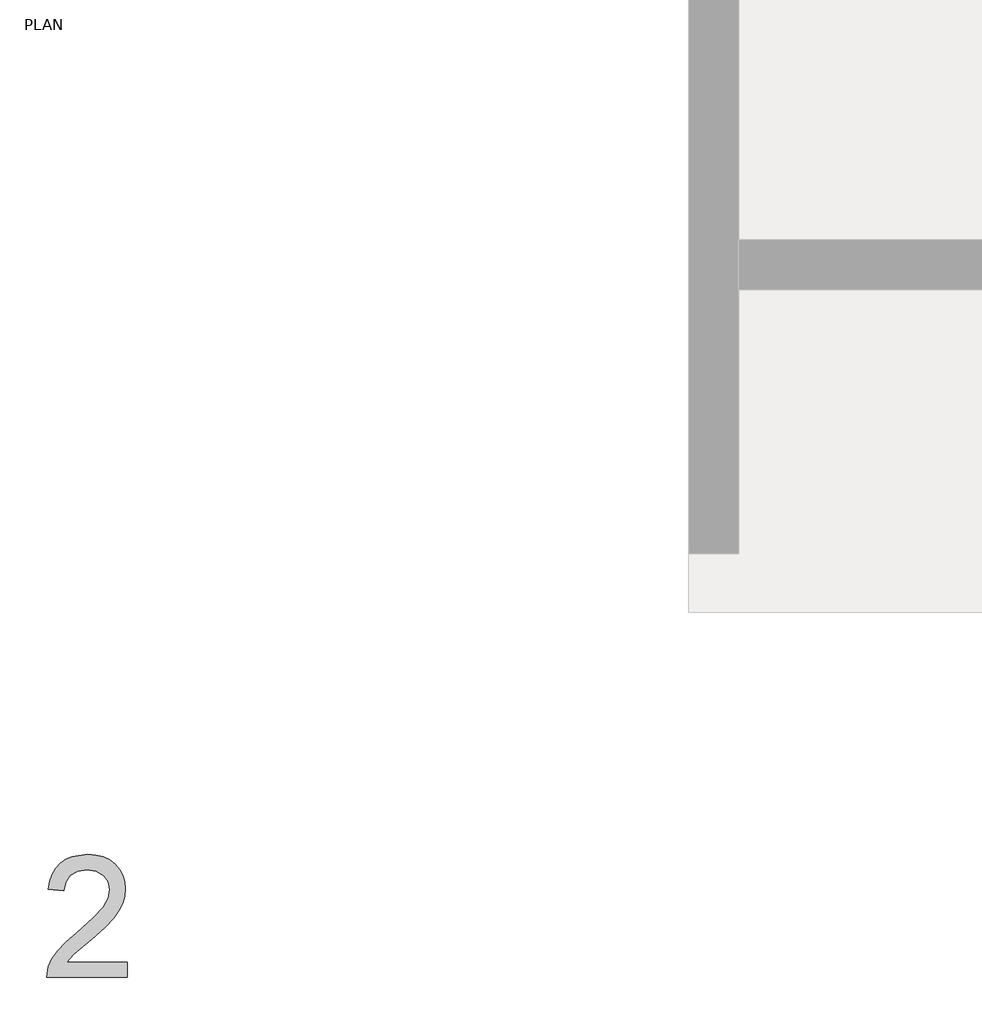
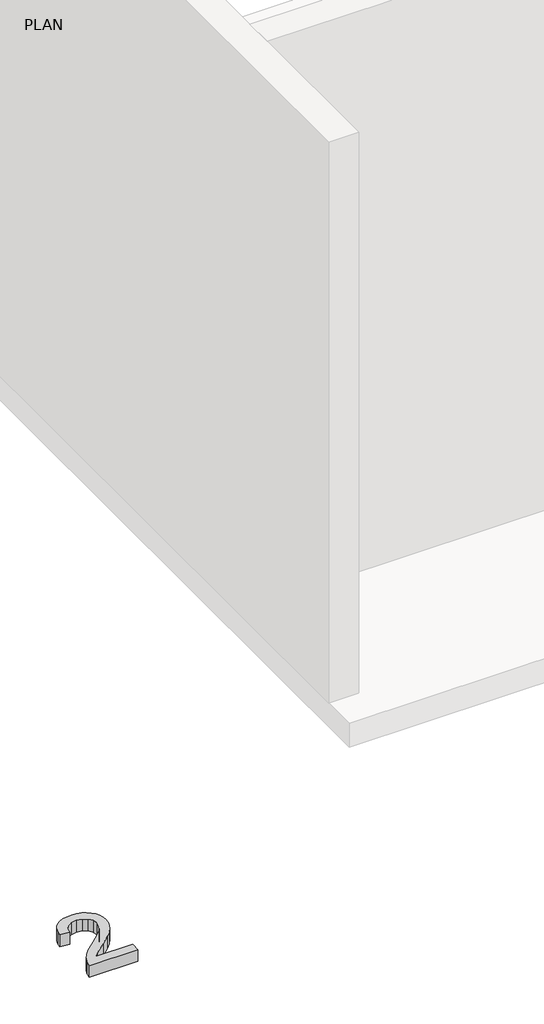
# One storey, part 11 of 21: 1 proxy.
"""IFC4 building model written with IfcOpenShell, lengths in millimetres."""

from ifc_helpers import new_model, si_unit, origin, origin_with_axes, place, context, project, spatial, polyline, outline, extrude, element, save

model = new_model("IFC4")

# Units and contexts
model_context = context("Model", 3, world=origin())
ifc_project = project(units=[si_unit("LENGTHUNIT", "METRE", prefix="MILLI")], contexts=[model_context])

# Site, building, storey
site = spatial("IfcSite", under=ifc_project)
building = spatial("IfcBuilding", under=site)
storey = spatial("IfcBuildingStorey", under=building, Name="PLAN", Elevation=0.0)

# Proxy
placement = place(None, origin())
element("IfcBuildingElementProxy", 1, Name="12\" Arial", ObjectType="12\" Arial", at=placement, inside=storey, context=model_context, shape_type="SweptSolid", body=[
    extrude(outline(polyline([(-24481.0835235, 11950.253123), (-24481.0835235, 11912.1822362), (-24680.955679, 11912.1822362), (-24676.8660329, 11938.4303281), (-24667.4784364, 11958.9436208), (-24653.7409435, 11978.8434667), (-24633.8689816, 11999.6727775), (-24606.0779779, 12022.9744653), (-24564.9956245, 12059.4652615), (-24540.3462125, 12086.4011575), (-24528.0215064, 12108.2621745), (-24523.9132711, 12129.5283339), (-24527.7891402, 12148.5916612), (-24539.4167474, 12164.4390396), (-24557.2903596, 12175.1185926), (-24579.9042432, 12178.6784435), (-24603.6520742, 12175.2022444), (-24622.1019546, 12164.773647), (-24634.0084014, 12148.2105806), (-24638.1259314, 12126.3309743), (-24676.1968181, 12131.0898351), (-24672.9227776, 12150.7433727), (-24666.9672306, 12167.9152387), (-24658.330177, 12182.6054332), (-24647.0116169, 12194.8139561), (-24633.2718004, 12204.4106823), (-24617.3709777, 12211.2654868), (-24579.086314, 12216.7493303), (-24558.6822334, 12215.2250077), (-24540.5228108, 12210.6520398), (-24524.6080462, 12203.0304268), (-24510.9379396, 12192.3601685), (-24499.9586342, 12179.4313102), (-24492.1162732, 12165.0338972), (-24487.4108565, 12149.1679295), (-24485.8423843, 12131.8334071), (-24487.5340107, 12113.6251876), (-24492.6088896, 12095.7329862), (-24501.6154055, 12077.5340613), (-24515.1019428, 12058.4056714), (-24536.6004685, 12035.5687161), (-24569.6429495, 12006.2440951), (-24613.4393407, 11969.6231738), (-24630.6158541, 11950.253123), (-24481.0835235, 11950.253123)])), origin_with_axes(), (0.0, 0.0, 1.0), 50.8),
])

save(model, "model.ifc")
